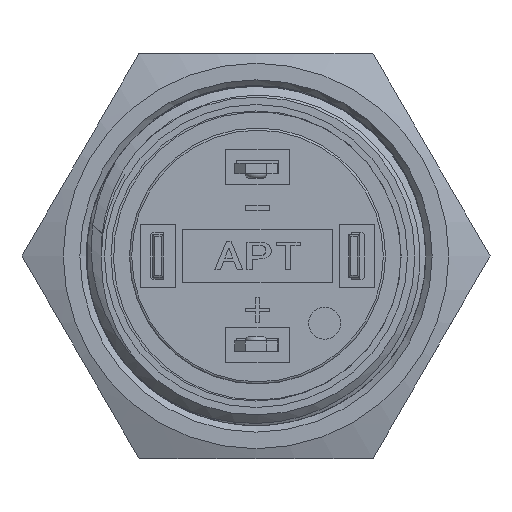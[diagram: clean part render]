
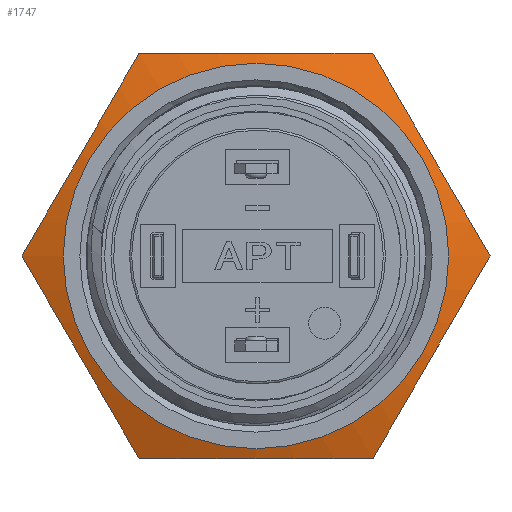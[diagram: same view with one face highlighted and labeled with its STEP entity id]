
A CAD part, front view. The second image highlights one B-rep face of the part: STEP entity #1747.
In plain terms, the highlighted conical face has half-angle 70.116 degrees and reference radius 10.97 mm.
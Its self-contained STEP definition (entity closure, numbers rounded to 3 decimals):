
#1138=CONICAL_SURFACE('',#9374,10.97,70.116);
#1229=B_SPLINE_CURVE_WITH_KNOTS('',3,(#15949,#15950,#15951,#15952,#15953),
 .UNSPECIFIED.,.F.,.F.,(4,1,4),(0.,0.5,1.),.UNSPECIFIED.);
#1230=B_SPLINE_CURVE_WITH_KNOTS('',3,(#15956,#15957,#15958,#15959,#15960),
 .UNSPECIFIED.,.F.,.F.,(4,1,4),(0.,0.5,1.),.UNSPECIFIED.);
#1231=B_SPLINE_CURVE_WITH_KNOTS('',3,(#15962,#15963,#15964,#15965,#15966),
 .UNSPECIFIED.,.F.,.F.,(4,1,4),(0.,0.5,1.),.UNSPECIFIED.);
#1232=B_SPLINE_CURVE_WITH_KNOTS('',3,(#15968,#15969,#15970,#15971,#15972),
 .UNSPECIFIED.,.F.,.F.,(4,1,4),(0.,0.5,1.),.UNSPECIFIED.);
#1233=B_SPLINE_CURVE_WITH_KNOTS('',3,(#15974,#15975,#15976,#15977,#15978),
 .UNSPECIFIED.,.F.,.F.,(4,1,4),(0.,0.5,1.),.UNSPECIFIED.);
#1234=B_SPLINE_CURVE_WITH_KNOTS('',3,(#15980,#15981,#15982,#15983,#15984),
 .UNSPECIFIED.,.F.,.F.,(4,1,4),(0.,0.5,1.),.UNSPECIFIED.);
#1415=FACE_BOUND('',#2897,.T.);
#1416=FACE_BOUND('',#2898,.T.);
#1747=ADVANCED_FACE('',(#1415,#1416),#1138,.T.);
#2897=EDGE_LOOP('',(#6021));
#2898=EDGE_LOOP('',(#6022,#6023,#6024,#6025,#6026,#6027));
#6021=ORIENTED_EDGE('',*,*,#8415,.T.);
#6022=ORIENTED_EDGE('',*,*,#8417,.F.);
#6023=ORIENTED_EDGE('',*,*,#8418,.F.);
#6024=ORIENTED_EDGE('',*,*,#8419,.F.);
#6025=ORIENTED_EDGE('',*,*,#8420,.F.);
#6026=ORIENTED_EDGE('',*,*,#8421,.F.);
#6027=ORIENTED_EDGE('',*,*,#8422,.F.);
#7451=VERTEX_POINT('',#15945);
#7452=VERTEX_POINT('',#15954);
#7453=VERTEX_POINT('',#15955);
#7454=VERTEX_POINT('',#15961);
#7455=VERTEX_POINT('',#15967);
#7456=VERTEX_POINT('',#15973);
#7457=VERTEX_POINT('',#15979);
#8415=EDGE_CURVE('',#7451,#7451,#8923,.T.);
#8417=EDGE_CURVE('',#7452,#7453,#1229,.T.);
#8418=EDGE_CURVE('',#7454,#7452,#1230,.T.);
#8419=EDGE_CURVE('',#7455,#7454,#1231,.T.);
#8420=EDGE_CURVE('',#7456,#7455,#1232,.T.);
#8421=EDGE_CURVE('',#7457,#7456,#1233,.T.);
#8422=EDGE_CURVE('',#7453,#7457,#1234,.T.);
#8923=CIRCLE('',#9370,9.034);
#9370=AXIS2_PLACEMENT_3D('',#15944,#10865,#10866);
#9374=AXIS2_PLACEMENT_3D('',#15985,#10873,#10874);
#10865=DIRECTION('',(0.,1.,0.));
#10866=DIRECTION('',(-1.,0.,0.));
#10873=DIRECTION('',(0.,1.,0.));
#10874=DIRECTION('',(-1.,0.,0.));
#15944=CARTESIAN_POINT('',(0.,11.95,0.));
#15945=CARTESIAN_POINT('',(-9.034,11.95,0.));
#15949=CARTESIAN_POINT('',(-10.97,12.65,0.));
#15950=CARTESIAN_POINT('',(-10.056,12.319,1.583));
#15951=CARTESIAN_POINT('',(-8.227,11.918,4.75));
#15952=CARTESIAN_POINT('',(-6.399,12.319,7.917));
#15953=CARTESIAN_POINT('',(-5.485,12.65,9.5));
#15954=CARTESIAN_POINT('',(-10.97,12.65,0.));
#15955=CARTESIAN_POINT('',(-5.485,12.65,9.5));
#15956=CARTESIAN_POINT('',(-5.485,12.65,-9.5));
#15957=CARTESIAN_POINT('',(-6.399,12.319,-7.917));
#15958=CARTESIAN_POINT('',(-8.227,11.918,-4.75));
#15959=CARTESIAN_POINT('',(-10.056,12.319,-1.583));
#15960=CARTESIAN_POINT('',(-10.97,12.65,0.));
#15961=CARTESIAN_POINT('',(-5.485,12.65,-9.5));
#15962=CARTESIAN_POINT('',(5.485,12.65,-9.5));
#15963=CARTESIAN_POINT('',(3.657,12.319,-9.5));
#15964=CARTESIAN_POINT('',(0.,11.918,-9.5));
#15965=CARTESIAN_POINT('',(-3.657,12.319,-9.5));
#15966=CARTESIAN_POINT('',(-5.485,12.65,-9.5));
#15967=CARTESIAN_POINT('',(5.485,12.65,-9.5));
#15968=CARTESIAN_POINT('',(10.97,12.65,0.));
#15969=CARTESIAN_POINT('',(10.056,12.319,-1.583));
#15970=CARTESIAN_POINT('',(8.227,11.918,-4.75));
#15971=CARTESIAN_POINT('',(6.399,12.319,-7.917));
#15972=CARTESIAN_POINT('',(5.485,12.65,-9.5));
#15973=CARTESIAN_POINT('',(10.97,12.65,0.));
#15974=CARTESIAN_POINT('',(5.485,12.65,9.5));
#15975=CARTESIAN_POINT('',(6.399,12.319,7.917));
#15976=CARTESIAN_POINT('',(8.227,11.918,4.75));
#15977=CARTESIAN_POINT('',(10.056,12.319,1.583));
#15978=CARTESIAN_POINT('',(10.97,12.65,0.));
#15979=CARTESIAN_POINT('',(5.485,12.65,9.5));
#15980=CARTESIAN_POINT('',(-5.485,12.65,9.5));
#15981=CARTESIAN_POINT('',(-3.657,12.319,9.5));
#15982=CARTESIAN_POINT('',(0.,11.918,9.5));
#15983=CARTESIAN_POINT('',(3.657,12.319,9.5));
#15984=CARTESIAN_POINT('',(5.485,12.65,9.5));
#15985=CARTESIAN_POINT('',(0.,12.65,0.));
